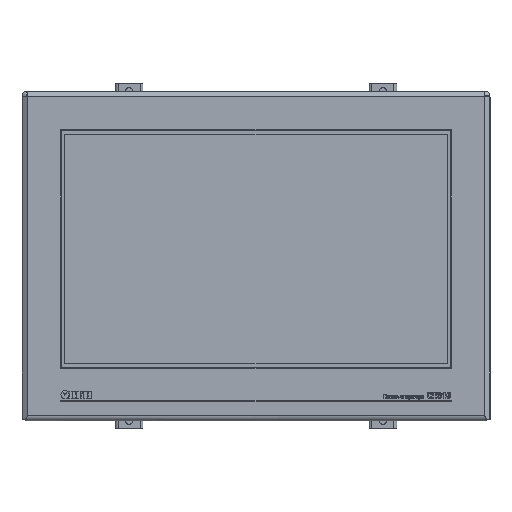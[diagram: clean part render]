
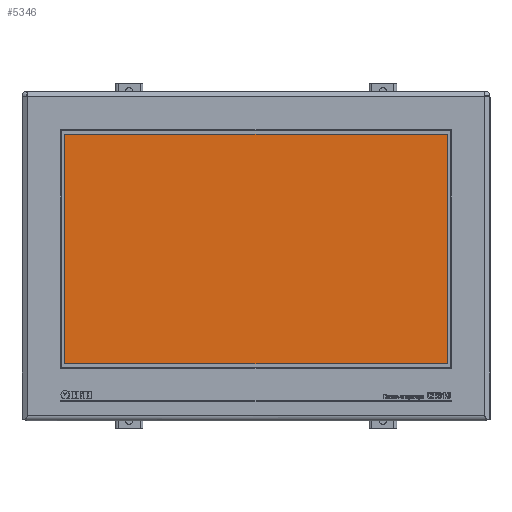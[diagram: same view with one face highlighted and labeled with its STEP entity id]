
A CAD part, top view. The second image highlights one B-rep face of the part: STEP entity #5346.
In plain terms, the highlighted planar face has unit normal (0, 0, 1).
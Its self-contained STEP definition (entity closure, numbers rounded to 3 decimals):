
#3151 = PLANE ( 'NONE',  #8030 ) ;
#3239 = DIRECTION ( 'NONE',  ( 1., 0., 0. ) ) ;
#4969 = ORIENTED_EDGE ( 'NONE', *, *, #22849, .T. ) ;
#5346 = ADVANCED_FACE ( 'NONE', ( #23960 ), #3151, .T. ) ;
#5798 = VECTOR ( 'NONE', #3239, 1000. ) ;
#7130 = CARTESIAN_POINT ( 'NONE',  ( 18.86, 159.538, 6.7 ) ) ;
#7380 = DIRECTION ( 'NONE',  ( 0., -1., 0. ) ) ;
#8030 = AXIS2_PLACEMENT_3D ( 'NONE', #21516, #47016, #25187 ) ;
#8255 = VECTOR ( 'NONE', #18706, 1000. ) ;
#8780 = EDGE_LOOP ( 'NONE', ( #32293, #40604, #28870, #4969 ) ) ;
#9259 = LINE ( 'NONE', #25649, #46973 ) ;
#13734 = EDGE_CURVE ( 'NONE', #42525, #40860, #25731, .T. ) ;
#15001 = CARTESIAN_POINT ( 'NONE',  ( 240.14, 26.551, 6.7 ) ) ;
#17800 = EDGE_CURVE ( 'NONE', #40860, #40518, #9259, .T. ) ;
#18706 = DIRECTION ( 'NONE',  ( 0., 1., 0. ) ) ;
#21516 = CARTESIAN_POINT ( 'NONE',  ( 0., 0., 6.7 ) ) ;
#21762 = CARTESIAN_POINT ( 'NONE',  ( 18.86, 26.551, 6.7 ) ) ;
#21797 = LINE ( 'NONE', #21762, #5798 ) ;
#22849 = EDGE_CURVE ( 'NONE', #23722, #42525, #28908, .T. ) ;
#23722 = VERTEX_POINT ( 'NONE', #47151 ) ;
#23960 = FACE_OUTER_BOUND ( 'NONE', #8780, .T. ) ;
#24343 = EDGE_CURVE ( 'NONE', #40518, #23722, #21797, .T. ) ;
#25187 = DIRECTION ( 'NONE',  ( 1., 0., 0. ) ) ;
#25649 = CARTESIAN_POINT ( 'NONE',  ( 18.86, 159.538, 6.7 ) ) ;
#25731 = LINE ( 'NONE', #32404, #34251 ) ;
#25918 = CARTESIAN_POINT ( 'NONE',  ( 18.86, 26.551, 6.7 ) ) ;
#28870 = ORIENTED_EDGE ( 'NONE', *, *, #24343, .T. ) ;
#28908 = LINE ( 'NONE', #15001, #8255 ) ;
#32293 = ORIENTED_EDGE ( 'NONE', *, *, #13734, .T. ) ;
#32404 = CARTESIAN_POINT ( 'NONE',  ( 240.14, 159.538, 6.7 ) ) ;
#34251 = VECTOR ( 'NONE', #47067, 1000. ) ;
#40518 = VERTEX_POINT ( 'NONE', #25918 ) ;
#40604 = ORIENTED_EDGE ( 'NONE', *, *, #17800, .T. ) ;
#40860 = VERTEX_POINT ( 'NONE', #7130 ) ;
#42525 = VERTEX_POINT ( 'NONE', #43509 ) ;
#43509 = CARTESIAN_POINT ( 'NONE',  ( 240.14, 159.538, 6.7 ) ) ;
#46973 = VECTOR ( 'NONE', #7380, 1000. ) ;
#47016 = DIRECTION ( 'NONE',  ( 0., 0., 1. ) ) ;
#47067 = DIRECTION ( 'NONE',  ( -1., 0., 0. ) ) ;
#47151 = CARTESIAN_POINT ( 'NONE',  ( 240.14, 26.551, 6.7 ) ) ;
